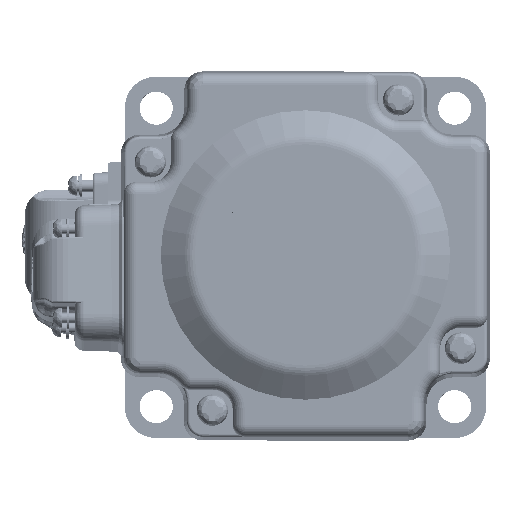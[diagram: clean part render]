
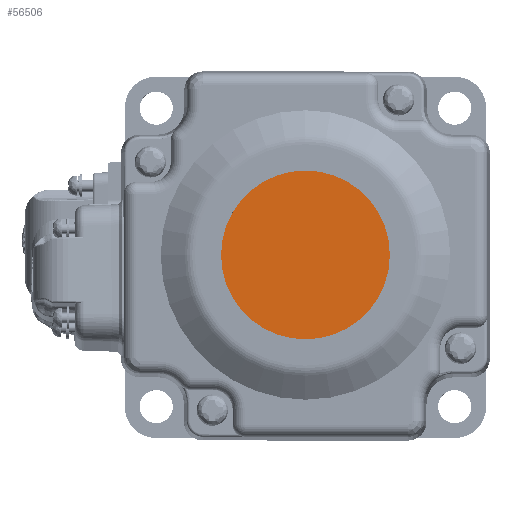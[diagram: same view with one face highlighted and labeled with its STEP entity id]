
A CAD part, top view. The second image highlights one B-rep face of the part: STEP entity #56506.
In plain terms, the highlighted planar face has unit normal (0, 0, 1).
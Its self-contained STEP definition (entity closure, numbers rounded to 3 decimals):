
#6970=CARTESIAN_POINT('',(30.148,30.222,176.59));
#6971=DIRECTION('',(0.,0.,-1.));
#6972=DIRECTION('',(-1.,0.,0.));
#6973=AXIS2_PLACEMENT_3D('',#6970,#6971,#6972);
#6975=CARTESIAN_POINT('',(30.148,30.222,176.59));
#6976=DIRECTION('',(0.,0.,-1.));
#6977=DIRECTION('',(1.,0.,0.));
#6978=AXIS2_PLACEMENT_3D('',#6975,#6976,#6977);
#40038=CARTESIAN_POINT('',(44.148,30.222,176.59));
#40039=VERTEX_POINT('',#40038);
#40040=CARTESIAN_POINT('',(16.148,30.222,176.59));
#40041=VERTEX_POINT('',#40040);
#56497=CARTESIAN_POINT('',(30.148,30.222,176.59));
#56498=DIRECTION('',(0.,0.,1.));
#56499=DIRECTION('',(1.,0.,0.));
#56500=AXIS2_PLACEMENT_3D('',#56497,#56498,#56499);
#56501=PLANE('',#56500);
#56502=ORIENTED_EDGE('',*,*,#56477,.T.);
#56503=ORIENTED_EDGE('',*,*,#56491,.T.);
#56504=EDGE_LOOP('',(#56502,#56503));
#56505=FACE_OUTER_BOUND('',#56504,.F.);
#6974=CIRCLE('',#6973,14.);
#6979=CIRCLE('',#6978,14.);
#56477=EDGE_CURVE('',#40041,#40039,#6974,.T.);
#56491=EDGE_CURVE('',#40039,#40041,#6979,.T.);
#56506=ADVANCED_FACE('',(#56505),#56501,.T.);
